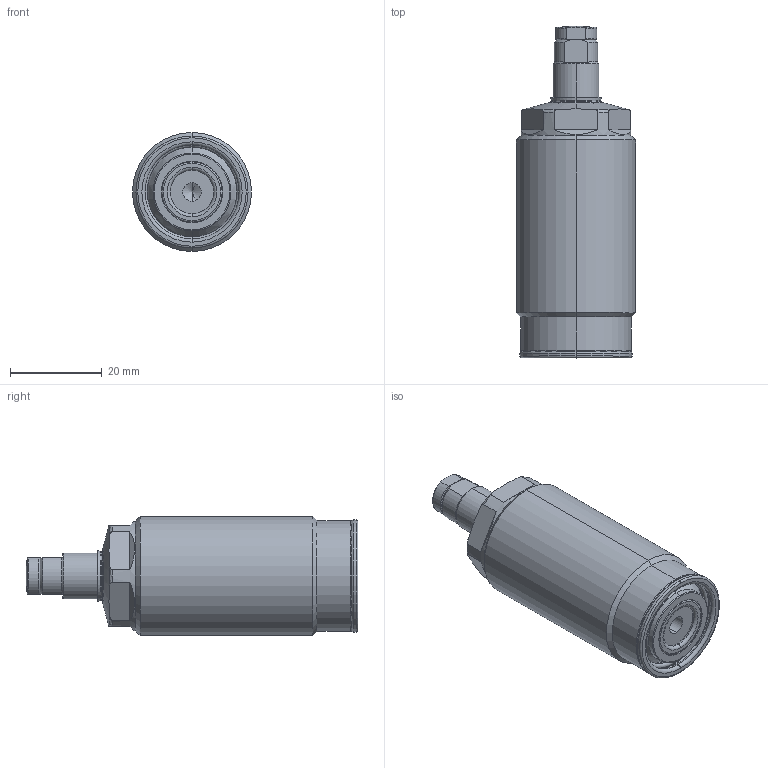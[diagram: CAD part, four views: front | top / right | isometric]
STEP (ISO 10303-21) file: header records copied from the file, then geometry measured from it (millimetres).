
FILE_DESCRIPTION(/* description */ (''),/* implementation_level */ '2;1');
FILE_NAME(/* name */ 'TSS26.stp',/* time_stamp */ '2024-11-02T13:13:30+08:00',/* author */ (''),/* organization */ (''),/* preprocessor_version */ 'ST-DEVELOPER v16.7',/* originating_system */ 'SIEMENS PLM Software NX 12.0',/* authorisation */ '');
FILE_SCHEMA (('AP203_CONFIGURATION_CONTROLLED_3D_DESIGN_OF_MECHANICAL_PARTS_AND_ASSEMBLIES_MIM_LF { 1 0 10303 403 2 1 2}'));
Length unit declared in the file: millimetre
Products named in the file (7): XLD-M6_Oring; XLD-M6_contactbolt; TSS26-04; TSS26-03; TSS26-02; TSS26-01; LD0263-x-E_step
Assembly tree (6 placements, depth 3):
  LD0263-x-E_step
    TSS26-01
      XLD-M6_contactbolt
      XLD-M6_Oring
    TSS26-02
    TSS26-03
    TSS26-04
Bounding box: 26 x 72.5 x 26 mm (x, y, z)
Volume: 27893.7 mm3; surface area: 7755.1 mm2
Topology: 5 solids, 5 shells, 171 faces, 374 edges, 220 vertices
Faces by surface type: torus 60, cylinder 42, plane 35, cone 32, sphere 2
Entity records: 5806 total; most frequent: CARTESIAN_POINT 1190, DIRECTION 912, ORIENTED_EDGE 744, AXIS2_PLACEMENT_3D 406, EDGE_CURVE 372, CIRCLE 228, VERTEX_POINT 220, EDGE_LOOP 184
